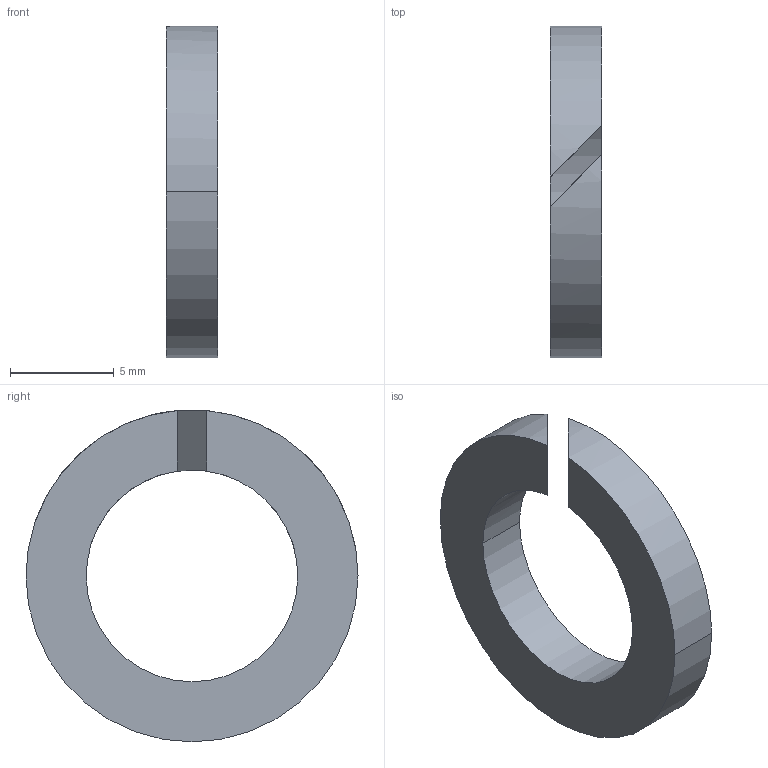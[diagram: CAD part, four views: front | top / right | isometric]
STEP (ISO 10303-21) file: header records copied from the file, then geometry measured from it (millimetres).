
FILE_DESCRIPTION(/* description */ ('VariCAD 2010-3.03 AP-214'),/* implementation_level */ '2;1');
FILE_NAME(/* name */ '0353-94-67',/* time_stamp */ '2011-06-29T15:22:38-06:00',/* author */ (''),/* organization */ (''),/* preprocessor_version */ 'ST-DEVELOPER v12',/* originating_system */ 'VariCAD 2010-3.03; kernel version (20100102)',/* authorisation */ '');
FILE_SCHEMA (('AUTOMOTIVE_DESIGN'));
Length unit declared in the file: millimetre
Products named in the file (1): Part
Bounding box: 2.5 x 16 x 15.99 mm (x, y, z)
Volume: 287.8 mm3; surface area: 449.8 mm2
Topology: 1 solids, 1 shells, 10 faces, 24 edges, 16 vertices
Faces by surface type: cylinder 6, plane 4
Entity records: 339 total; most frequent: CARTESIAN_POINT 72, DIRECTION 56, ORIENTED_EDGE 48, EDGE_CURVE 24, AXIS2_PLACEMENT_3D 24, VERTEX_POINT 16, CIRCLE 12, ADVANCED_FACE 10
